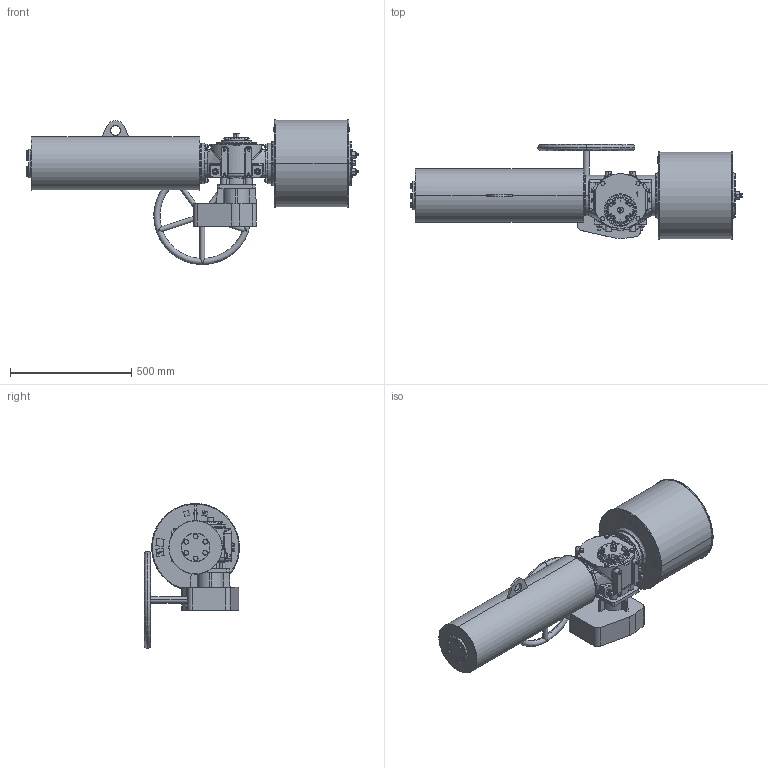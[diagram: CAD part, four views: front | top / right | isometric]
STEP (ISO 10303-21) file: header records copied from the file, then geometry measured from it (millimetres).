
FILE_DESCRIPTION (( 'STEP AP203' ), '1' );
FILE_NAME ('VTS1-350-SR-MW-FO.STEP', '2023-01-01T07:29:45', ( '' ), ( '' ), 'SwSTEP 2.0', 'SolidWorks 2020', '' );
FILE_SCHEMA (( 'CONFIG_CONTROL_DESIGN' ));
Length unit declared in the file: millimetre
Products named in the file (1): VTS1-350-SR-MW-FO
Bounding box: 1366.78 x 391.5 x 597.5 mm (x, y, z)
Volume: 72265699.8 mm3; surface area: 2141370.8 mm2
Topology: 9 solids, 15 shells, 2100 faces, 5517 edges, 3481 vertices
Faces by surface type: plane 789, cylinder 611, cone 411, bspline 227, torus 34, sphere 28
Entity records: 91190 total; most frequent: CARTESIAN_POINT 42995, ORIENTED_EDGE 10846, DIRECTION 8926, EDGE_CURVE 5423, VERTEX_POINT 3481, AXIS2_PLACEMENT_3D 3419, EDGE_LOOP 2304, ADVANCED_FACE 2100
